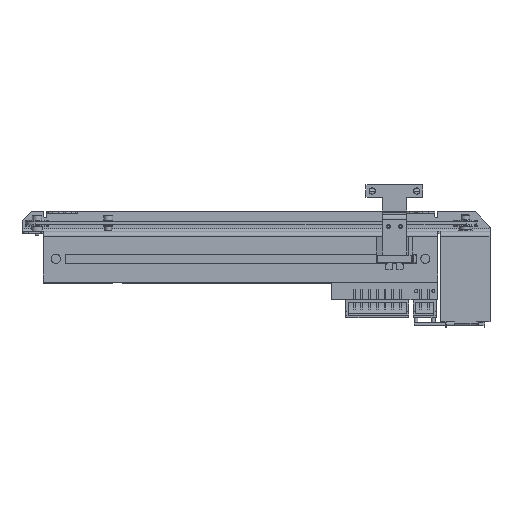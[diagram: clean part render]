
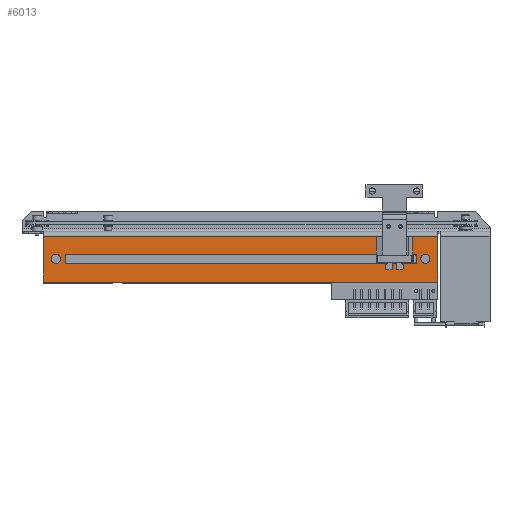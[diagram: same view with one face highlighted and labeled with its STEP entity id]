
A CAD part, front view. The second image highlights one B-rep face of the part: STEP entity #6013.
In plain terms, the highlighted planar face has unit normal (0, -1, 0).
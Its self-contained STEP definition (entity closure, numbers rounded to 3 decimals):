
#5627=CARTESIAN_POINT('',(-31.747,92.405,-11.499));
#5628=VERTEX_POINT('',#5627);
#5635=CARTESIAN_POINT('',(-31.747,92.405,-14.499));
#5636=VERTEX_POINT('',#5635);
#5637=CARTESIAN_POINT('',(-31.747,92.405,-11.499));
#5638=DIRECTION('',(-0.,-0.,-1.));
#5639=VECTOR('',#5638,3.);
#5640=LINE('',#5637,#5639);
#5641=EDGE_CURVE('',#5628,#5636,#5640,.T.);
#5739=CARTESIAN_POINT('',(82.253,92.405,-14.499));
#5740=VERTEX_POINT('',#5739);
#5747=CARTESIAN_POINT('',(82.253,92.405,-11.499));
#5748=VERTEX_POINT('',#5747);
#5749=CARTESIAN_POINT('',(82.253,92.405,-14.499));
#5750=DIRECTION('',(0.,0.,1.));
#5751=VECTOR('',#5750,3.);
#5752=LINE('',#5749,#5751);
#5753=EDGE_CURVE('',#5740,#5748,#5752,.T.);
#5912=CARTESIAN_POINT('',(82.253,92.405,-11.499));
#5913=DIRECTION('',(-1.,-0.,0.));
#5914=VECTOR('',#5913,114.);
#5915=LINE('',#5912,#5914);
#5916=EDGE_CURVE('',#5748,#5628,#5915,.T.);
#5923=CARTESIAN_POINT('',(25.253,92.405,-12.233));
#5924=DIRECTION('',(0.,-1.,0.));
#5925=DIRECTION('',(0.,0.,-1.));
#5926=AXIS2_PLACEMENT_3D('',#5923,#5924,#5925);
#5927=PLANE('',#5926);
#5928=CARTESIAN_POINT('',(-38.747,92.405,-20.588));
#5929=VERTEX_POINT('',#5928);
#5930=CARTESIAN_POINT('',(-38.747,92.405,-5.688));
#5931=VERTEX_POINT('',#5930);
#5932=CARTESIAN_POINT('',(-38.747,92.405,-20.588));
#5933=DIRECTION('',(0.,0.,1.));
#5934=VECTOR('',#5933,14.9);
#5935=LINE('',#5932,#5934);
#5936=EDGE_CURVE('',#5929,#5931,#5935,.T.);
#5937=ORIENTED_EDGE('',*,*,#5936,.F.);
#5938=CARTESIAN_POINT('',(89.253,92.405,-20.588));
#5939=VERTEX_POINT('',#5938);
#5940=CARTESIAN_POINT('',(89.253,92.405,-20.588));
#5941=DIRECTION('',(-1.,0.,0.));
#5942=VECTOR('',#5941,128.);
#5943=LINE('',#5940,#5942);
#5944=EDGE_CURVE('',#5939,#5929,#5943,.T.);
#5945=ORIENTED_EDGE('',*,*,#5944,.F.);
#5946=CARTESIAN_POINT('',(89.253,92.405,-5.688));
#5947=VERTEX_POINT('',#5946);
#5948=CARTESIAN_POINT('',(89.253,92.405,-20.588));
#5949=DIRECTION('',(-0.,-0.,1.));
#5950=VECTOR('',#5949,14.9);
#5951=LINE('',#5948,#5950);
#5952=EDGE_CURVE('',#5939,#5947,#5951,.T.);
#5953=ORIENTED_EDGE('',*,*,#5952,.T.);
#5954=CARTESIAN_POINT('',(-38.747,92.405,-5.688));
#5955=DIRECTION('',(1.,-0.,-0.));
#5956=VECTOR('',#5955,128.);
#5957=LINE('',#5954,#5956);
#5958=EDGE_CURVE('',#5931,#5947,#5957,.T.);
#5959=ORIENTED_EDGE('',*,*,#5958,.F.);
#5960=EDGE_LOOP('',(#5937,#5945,#5953,#5959));
#5961=FACE_BOUND('',#5960,.T.);
#5962=ORIENTED_EDGE('',*,*,#5916,.F.);
#5963=ORIENTED_EDGE('',*,*,#5753,.F.);
#5964=CARTESIAN_POINT('',(-31.747,92.405,-14.499));
#5965=DIRECTION('',(1.,-0.,-0.));
#5966=VECTOR('',#5965,114.);
#5967=LINE('',#5964,#5966);
#5968=EDGE_CURVE('',#5636,#5740,#5967,.T.);
#5969=ORIENTED_EDGE('',*,*,#5968,.F.);
#5970=ORIENTED_EDGE('',*,*,#5641,.F.);
#5971=EDGE_LOOP('',(#5962,#5963,#5969,#5970));
#5972=FACE_BOUND('',#5971,.T.);
#5973=CARTESIAN_POINT('',(85.253,92.405,-14.499));
#5974=VERTEX_POINT('',#5973);
#5975=CARTESIAN_POINT('',(83.753,92.405,-12.999));
#5976=VERTEX_POINT('',#5975);
#5977=CARTESIAN_POINT('',(85.253,92.405,-12.999));
#5978=DIRECTION('',(-0.,1.,-0.));
#5979=DIRECTION('',(0.,0.,-1.));
#5980=AXIS2_PLACEMENT_3D('',#5977,#5978,#5979);
#5981=CIRCLE('',#5980,1.5);
#5982=EDGE_CURVE('',#5974,#5976,#5981,.T.);
#5983=ORIENTED_EDGE('',*,*,#5982,.T.);
#5984=CARTESIAN_POINT('',(85.253,92.405,-12.999));
#5985=DIRECTION('',(-0.,1.,-0.));
#5986=DIRECTION('',(0.,0.,-1.));
#5987=AXIS2_PLACEMENT_3D('',#5984,#5985,#5986);
#5988=CIRCLE('',#5987,1.5);
#5989=EDGE_CURVE('',#5976,#5974,#5988,.T.);
#5990=ORIENTED_EDGE('',*,*,#5989,.T.);
#5991=EDGE_LOOP('',(#5983,#5990));
#5992=FACE_BOUND('',#5991,.T.);
#5993=CARTESIAN_POINT('',(-34.747,92.405,-14.499));
#5994=VERTEX_POINT('',#5993);
#5995=CARTESIAN_POINT('',(-36.247,92.405,-12.999));
#5996=VERTEX_POINT('',#5995);
#5997=CARTESIAN_POINT('',(-34.747,92.405,-12.999));
#5998=DIRECTION('',(-0.,1.,-0.));
#5999=DIRECTION('',(0.,0.,-1.));
#6000=AXIS2_PLACEMENT_3D('',#5997,#5998,#5999);
#6001=CIRCLE('',#6000,1.5);
#6002=EDGE_CURVE('',#5994,#5996,#6001,.T.);
#6003=ORIENTED_EDGE('',*,*,#6002,.T.);
#6004=CARTESIAN_POINT('',(-34.747,92.405,-12.999));
#6005=DIRECTION('',(-0.,1.,-0.));
#6006=DIRECTION('',(0.,0.,-1.));
#6007=AXIS2_PLACEMENT_3D('',#6004,#6005,#6006);
#6008=CIRCLE('',#6007,1.5);
#6009=EDGE_CURVE('',#5996,#5994,#6008,.T.);
#6010=ORIENTED_EDGE('',*,*,#6009,.T.);
#6011=EDGE_LOOP('',(#6003,#6010));
#6012=FACE_BOUND('',#6011,.T.);
#6013=ADVANCED_FACE('',(#5961,#5972,#5992,#6012),#5927,.T.);
